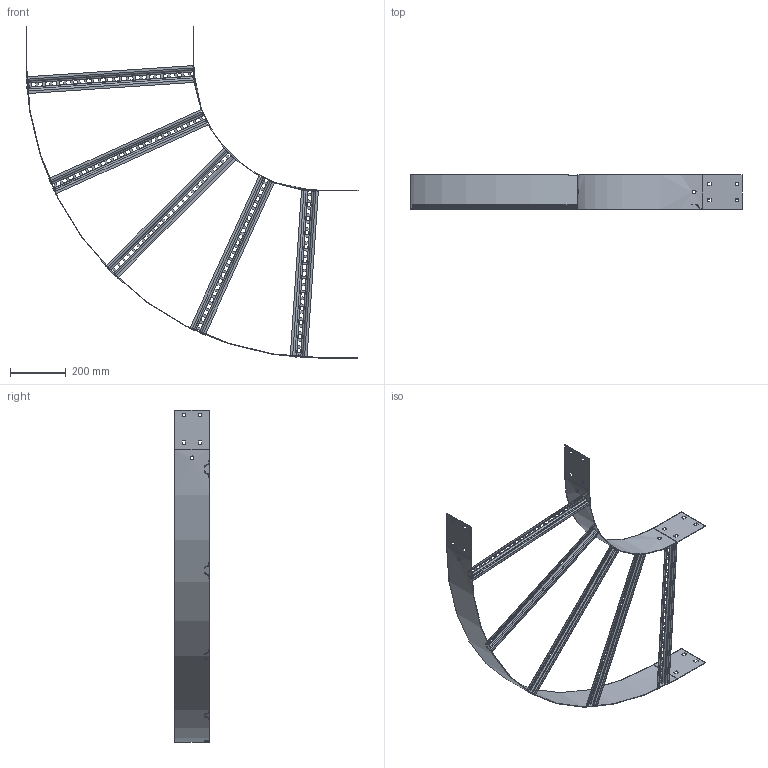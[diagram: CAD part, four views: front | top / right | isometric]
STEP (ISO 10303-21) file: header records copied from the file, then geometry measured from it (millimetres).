
FILE_DESCRIPTION (( 'STEP AP203' ), '1' );
FILE_NAME ('N3 IR 6004.STEP', '2021-06-10T21:08:33', ( '' ), ( '' ), 'SwSTEP 2.0', 'SolidWorks 2020', '' );
FILE_SCHEMA (( 'CONFIG_CONTROL_DESIGN' ));
Length unit declared in the file: millimetre
Products named in the file (4): N3 IR 6004; Ladder Rung_Ladder Rung -  600mm; N3 RADIUS PLATE_N1-450 IR; N3 RADIUS PLATE_N1-1050 
Assembly tree (7 placements, depth 2):
  N3 IR 6004
    N3 RADIUS PLATE_N1-450 IR
    N3 RADIUS PLATE_N1-1050 
    Ladder Rung_Ladder Rung -  600mm  x5
Bounding box: 1194.5 x 124 x 1194.5 mm (x, y, z)
Volume: 1039951.6 mm3; surface area: 1156281.4 mm2
Topology: 7 solids, 7 shells, 790 faces, 2152 edges, 1376 vertices
Faces by surface type: plane 738, cylinder 52
Entity records: 8678 total; most frequent: CARTESIAN_POINT 1996, ORIENTED_EDGE 1296, DIRECTION 1152, EDGE_CURVE 648, LINE 608, VECTOR 608, VERTEX_POINT 416, EDGE_LOOP 324
